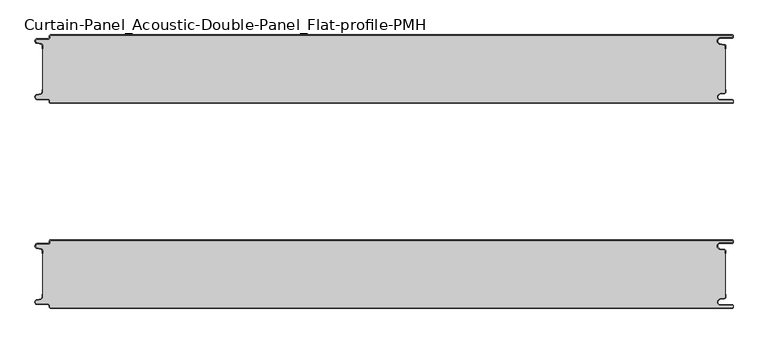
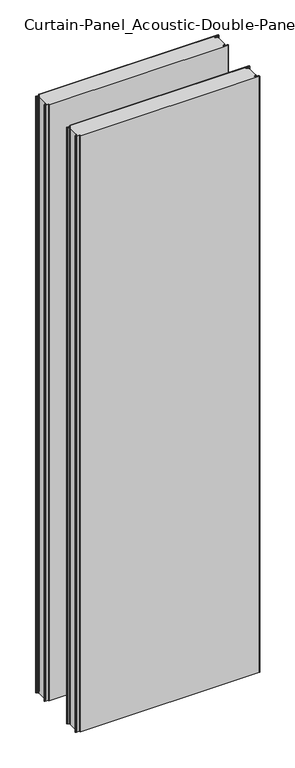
"""IFC4 building model written with IfcOpenShell, lengths in millimetres: plate geometry, Curtain-Panel_Acoustic-Double-Panel_Flat-profile-PMH : ACH_Acoustic-Double-Panel_PMH_100-200-100."""

from ifc_helpers import new_model, si_unit, point, frame_2d, origin, origin_with_axes, place, context, project, spatial, polyline, circle_curve, trimmed, segment, composite_curve, outline, extrude, source, transform, mapped, element, save


def curtain_panel_acoustic_double_panel_flat_profile_pmh_b9cf46a1(model_context):
    return source(origin(), model_context, "Body", "SweptSolid", [
        extrude(outline(composite_curve([segment(polyline([(-487.4, -300.0), (508.1, -300.0)]), True, "CONTINUOUS"), segment(trimmed(circle_curve(frame_2d((508.1, -302.5)), 2.5), [point((508.1, -300.0))], [point((509.6, -300.5))], False, "CARTESIAN"), True, "CONTINUOUS"), segment(polyline([(509.6, -300.5), (509.6, -301.7)]), True, "CONTINUOUS"), segment(trimmed(circle_curve(frame_2d((508.1, -302.5)), 1.7), [point((509.6, -301.7))], [point((508.1, -300.8))], True, "CARTESIAN"), True, "CONTINUOUS"), segment(polyline([(508.1, -300.8), (-487.4, -300.8)]), True, "CONTINUOUS"), segment(trimmed(circle_curve(frame_2d((-487.4, -302.0)), 1.2), [point((-487.4, -300.8))], [point((-488.6, -302.0))], True, "CARTESIAN"), True, "CONTINUOUS"), segment(polyline([(-488.6, -302.0), (-488.6, -303.4)]), True, "CONTINUOUS"), segment(trimmed(circle_curve(frame_2d((-491.4, -303.4)), 2.8), [point((-488.6, -303.4))], [point((-491.4, -306.2))], False, "CARTESIAN"), True, "CONTINUOUS"), segment(polyline([(-491.4, -306.2), (-506.9, -306.2)]), True, "CONTINUOUS"), segment(trimmed(circle_curve(frame_2d((-506.9, -309.0)), 2.8), [point((-506.9, -306.2))], [point((-507.529863, -311.7282362))], True, "CARTESIAN"), True, "CONTINUOUS"), segment(polyline([(-507.529863, -311.7282362), (-501.370137, -313.150321)]), True, "CONTINUOUS"), segment(trimmed(circle_curve(frame_2d((-502.0, -315.878557)), 2.8), [point((-501.370137, -313.150321))], [point((-499.2, -315.878557))], False, "CARTESIAN"), True, "CONTINUOUS"), segment(polyline([(-499.2, -315.878557), (-499.2, -320.0), (-500.0, -320.0), (-500.0, -315.878557)]), True, "CONTINUOUS"), segment(trimmed(circle_curve(frame_2d((-502.0, -315.878557)), 2.0), [point((-500.0, -315.878557))], [point((-501.5500978, -313.9298169))], True, "CARTESIAN"), True, "CONTINUOUS"), segment(polyline([(-501.5500978, -313.9298169), (-507.7098239, -312.507732)]), True, "CONTINUOUS"), segment(trimmed(circle_curve(frame_2d((-506.9, -309.0)), 3.6), [point((-507.7098239, -312.507732))], [point((-506.9, -305.4))], False, "CARTESIAN"), True, "CONTINUOUS"), segment(polyline([(-506.9, -305.4), (-491.4, -305.4)]), True, "CONTINUOUS"), segment(trimmed(circle_curve(frame_2d((-491.4, -303.4)), 2.0), [point((-491.4, -305.4))], [point((-489.4, -303.4))], True, "CARTESIAN"), True, "CONTINUOUS"), segment(polyline([(-489.4, -303.4), (-489.4, -302.0)]), True, "CONTINUOUS"), segment(trimmed(circle_curve(frame_2d((-487.4, -302.0)), 2.0), [point((-489.4, -302.0))], [point((-487.4, -300.0))], False, "CARTESIAN"), True, "CONTINUOUS")], self_intersect=False)), origin_with_axes(), (0.0, 0.0, 1.0), 3500.0),
        extrude(outline(composite_curve([segment(polyline([(508.1, -305.0), (491.1, -305.0)]), True, "CONTINUOUS"), segment(trimmed(circle_curve(frame_2d((491.1, -309.0)), 4.0), [point((491.1, -305.0))], [point((490.405407, -312.939231))], True, "CARTESIAN"), True, "CONTINUOUS"), segment(polyline([(490.405407, -312.939231), (496.8514855, -314.0758491)]), True, "CONTINUOUS"), segment(trimmed(circle_curve(frame_2d((496.4, -316.6363492)), 2.6), [point((496.8514855, -314.0758491))], [point((499.0, -316.6363492))], False, "CARTESIAN"), True, "CONTINUOUS"), segment(polyline([(499.0, -316.6363492), (499.0, -320.0), (498.2, -320.0), (498.2, -316.6363492)]), True, "CONTINUOUS"), segment(trimmed(circle_curve(frame_2d((496.4, -316.6363492)), 1.8), [point((498.2, -316.6363492))], [point((496.7125669, -314.8636953))], True, "CARTESIAN"), True, "CONTINUOUS"), segment(polyline([(496.7125669, -314.8636953), (490.2664884, -313.7270771)]), True, "CONTINUOUS"), segment(trimmed(circle_curve(frame_2d((491.1, -309.0)), 4.8), [point((490.2664884, -313.7270771))], [point((491.1, -304.2))], False, "CARTESIAN"), True, "CONTINUOUS"), segment(polyline([(491.1, -304.2), (508.1, -304.2)]), True, "CONTINUOUS"), segment(trimmed(circle_curve(frame_2d((508.1, -302.5)), 1.7), [point((508.1, -304.2))], [point((509.6, -303.3))], True, "CARTESIAN"), True, "CONTINUOUS"), segment(polyline([(509.6, -303.3), (509.6, -304.5)]), True, "CONTINUOUS"), segment(trimmed(circle_curve(frame_2d((508.1, -302.5)), 2.5), [point((509.6, -304.5))], [point((508.1, -305.0))], False, "CARTESIAN"), True, "CONTINUOUS")], self_intersect=False)), origin_with_axes(), (0.0, 0.0, 1.0), 3500.0),
        extrude(outline(composite_curve([segment(polyline([(-499.2, -384.1214426), (-499.2, -315.8785573)]), True, "CONTINUOUS"), segment(trimmed(circle_curve(frame_2d((-502.0, -315.8785573)), 2.8), [point((-499.2, -315.8785573))], [point((-501.370137, -313.1503212))], True, "CARTESIAN"), True, "CONTINUOUS"), segment(polyline([(-501.370137, -313.1503212), (-507.5298631, -311.7282362)]), True, "CONTINUOUS"), segment(trimmed(circle_curve(frame_2d((-506.9, -309.0)), 2.8), [point((-507.5298631, -311.7282362))], [point((-506.9, -306.2))], False, "CARTESIAN"), True, "CONTINUOUS"), segment(polyline([(-506.9, -306.2), (-491.4000001, -306.2)]), True, "CONTINUOUS"), segment(trimmed(circle_curve(frame_2d((-491.4000001, -303.4)), 2.8), [point((-491.4000001, -306.2))], [point((-488.6000001, -303.4))], True, "CARTESIAN"), True, "CONTINUOUS"), segment(polyline([(-488.6000001, -303.4), (-488.6000001, -302.0)]), True, "CONTINUOUS"), segment(trimmed(circle_curve(frame_2d((-487.4000001, -302.0)), 1.2), [point((-488.6000001, -302.0))], [point((-487.4000001, -300.8))], False, "CARTESIAN"), True, "CONTINUOUS"), segment(polyline([(-487.4000001, -300.8), (508.1, -300.8)]), True, "CONTINUOUS"), segment(trimmed(circle_curve(frame_2d((508.1, -302.5)), 1.7), [point((508.1, -300.8))], [point((509.6, -301.7000001))], False, "CARTESIAN"), True, "CONTINUOUS"), segment(polyline([(509.6, -301.7000001), (509.6, -303.2999999)]), True, "CONTINUOUS"), segment(trimmed(circle_curve(frame_2d((508.1, -302.5)), 1.7), [point((509.6, -303.2999999))], [point((508.1, -304.2))], False, "CARTESIAN"), True, "CONTINUOUS"), segment(polyline([(508.1, -304.2), (491.1, -304.2)]), True, "CONTINUOUS"), segment(trimmed(circle_curve(frame_2d((491.1, -309.0)), 4.8), [point((491.1, -304.2))], [point((490.2664883, -313.7270771))], True, "CARTESIAN"), True, "CONTINUOUS"), segment(polyline([(490.2664883, -313.7270771), (496.7125668, -314.8636953)]), True, "CONTINUOUS"), segment(trimmed(circle_curve(frame_2d((496.4, -316.6363492)), 1.8), [point((496.7125668, -314.8636953))], [point((498.2, -316.6363492))], False, "CARTESIAN"), True, "CONTINUOUS"), segment(polyline([(498.2, -316.6363492), (498.2, -383.3636508)]), True, "CONTINUOUS"), segment(trimmed(circle_curve(frame_2d((496.4, -383.3636508)), 1.8), [point((498.2, -383.3636508))], [point((496.7125668, -385.1363047))], False, "CARTESIAN"), True, "CONTINUOUS"), segment(polyline([(496.7125668, -385.1363047), (490.2664883, -386.2729229)]), True, "CONTINUOUS"), segment(trimmed(circle_curve(frame_2d((491.1, -391.0)), 4.8), [point((490.2664883, -386.2729229))], [point((491.1, -395.8))], True, "CARTESIAN"), True, "CONTINUOUS"), segment(polyline([(491.1, -395.8), (508.1, -395.8)]), True, "CONTINUOUS"), segment(trimmed(circle_curve(frame_2d((508.1, -397.5)), 1.7), [point((508.1, -395.8))], [point((509.6, -396.7000001))], False, "CARTESIAN"), True, "CONTINUOUS"), segment(polyline([(509.6, -396.7000001), (509.6, -398.2999999)]), True, "CONTINUOUS"), segment(trimmed(circle_curve(frame_2d((508.1, -397.5)), 1.7), [point((509.6, -398.2999999))], [point((508.1, -399.2))], False, "CARTESIAN"), True, "CONTINUOUS"), segment(polyline([(508.1, -399.2), (-487.4000001, -399.2)]), True, "CONTINUOUS"), segment(trimmed(circle_curve(frame_2d((-487.4000001, -398.0)), 1.2), [point((-487.4000001, -399.2))], [point((-488.6000001, -398.0))], False, "CARTESIAN"), True, "CONTINUOUS"), segment(polyline([(-488.6000001, -398.0), (-488.6000001, -396.6)]), True, "CONTINUOUS"), segment(trimmed(circle_curve(frame_2d((-491.4000001, -396.6)), 2.8), [point((-488.6000001, -396.6))], [point((-491.4000001, -393.8))], True, "CARTESIAN"), True, "CONTINUOUS"), segment(polyline([(-491.4000001, -393.8), (-506.9, -393.8)]), True, "CONTINUOUS"), segment(trimmed(circle_curve(frame_2d((-506.9, -391.0)), 2.8), [point((-506.9, -393.8))], [point((-507.5298631, -388.2717638))], False, "CARTESIAN"), True, "CONTINUOUS"), segment(polyline([(-507.5298631, -388.2717638), (-501.370137, -386.8496788)]), True, "CONTINUOUS"), segment(trimmed(circle_curve(frame_2d((-502.0, -384.1214426)), 2.8), [point((-501.370137, -386.8496788))], [point((-499.2, -384.1214426))], True, "CARTESIAN"), True, "CONTINUOUS")], self_intersect=False)), origin_with_axes(), (0.0, 0.0, 1.0), 3500.0),
        extrude(outline(composite_curve([segment(polyline([(508.1, -400.0), (-487.4, -400.0)]), True, "CONTINUOUS"), segment(trimmed(circle_curve(frame_2d((-487.4, -398.0)), 2.0), [point((-487.4, -400.0))], [point((-489.4, -398.0))], False, "CARTESIAN"), True, "CONTINUOUS"), segment(polyline([(-489.4, -398.0), (-489.4, -396.6)]), True, "CONTINUOUS"), segment(trimmed(circle_curve(frame_2d((-491.4, -396.6)), 2.0), [point((-489.4, -396.6))], [point((-491.4, -394.6))], True, "CARTESIAN"), True, "CONTINUOUS"), segment(polyline([(-491.4, -394.6), (-506.9, -394.6)]), True, "CONTINUOUS"), segment(trimmed(circle_curve(frame_2d((-506.9, -391.0)), 3.6), [point((-506.9, -394.6))], [point((-507.7098239, -387.4922678))], False, "CARTESIAN"), True, "CONTINUOUS"), segment(polyline([(-507.7098239, -387.4922678), (-501.5500979, -386.070183)]), True, "CONTINUOUS"), segment(trimmed(circle_curve(frame_2d((-502.0, -384.121443)), 2.0), [point((-501.5500979, -386.070183))], [point((-500.0, -384.121443))], True, "CARTESIAN"), True, "CONTINUOUS"), segment(polyline([(-500.0, -384.121443), (-500.0, -380.0), (-499.2, -380.0), (-499.2, -384.121443)]), True, "CONTINUOUS"), segment(trimmed(circle_curve(frame_2d((-502.0, -384.121443)), 2.8), [point((-499.2, -384.121443))], [point((-501.370137, -386.8496792))], False, "CARTESIAN"), True, "CONTINUOUS"), segment(polyline([(-501.370137, -386.8496792), (-507.529863, -388.271764)]), True, "CONTINUOUS"), segment(trimmed(circle_curve(frame_2d((-506.9, -391.0)), 2.8), [point((-507.529863, -388.271764))], [point((-506.9, -393.8))], True, "CARTESIAN"), True, "CONTINUOUS"), segment(polyline([(-506.9, -393.8), (-491.4, -393.8)]), True, "CONTINUOUS"), segment(trimmed(circle_curve(frame_2d((-491.4, -396.6)), 2.8), [point((-491.4, -393.8))], [point((-488.6, -396.6))], False, "CARTESIAN"), True, "CONTINUOUS"), segment(polyline([(-488.6, -396.6), (-488.6, -398.0)]), True, "CONTINUOUS"), segment(trimmed(circle_curve(frame_2d((-487.4, -398.0)), 1.2), [point((-488.6, -398.0))], [point((-487.4, -399.2))], True, "CARTESIAN"), True, "CONTINUOUS"), segment(polyline([(-487.4, -399.2), (508.1, -399.2)]), True, "CONTINUOUS"), segment(trimmed(circle_curve(frame_2d((508.1, -397.5)), 1.7), [point((508.1, -399.2))], [point((509.6, -398.3))], True, "CARTESIAN"), True, "CONTINUOUS"), segment(polyline([(509.6, -398.3), (509.6, -399.5)]), True, "CONTINUOUS"), segment(trimmed(circle_curve(frame_2d((508.1, -397.5)), 2.5), [point((509.6, -399.5))], [point((508.1, -400.0))], False, "CARTESIAN"), True, "CONTINUOUS")], self_intersect=False)), origin_with_axes(), (0.0, 0.0, 1.0), 3500.0),
        extrude(outline(composite_curve([segment(polyline([(508.1, -395.8), (491.1, -395.8)]), True, "CONTINUOUS"), segment(trimmed(circle_curve(frame_2d((491.1, -391.0)), 4.8), [point((491.1, -395.8))], [point((490.2664884, -386.2729229))], False, "CARTESIAN"), True, "CONTINUOUS"), segment(polyline([(490.2664884, -386.2729229), (496.7125669, -385.1363047)]), True, "CONTINUOUS"), segment(trimmed(circle_curve(frame_2d((496.4, -383.3636508)), 1.8), [point((496.7125669, -385.1363047))], [point((498.2, -383.3636508))], True, "CARTESIAN"), True, "CONTINUOUS"), segment(polyline([(498.2, -383.3636508), (498.2, -380.0), (499.0, -380.0), (499.0, -383.3636508)]), True, "CONTINUOUS"), segment(trimmed(circle_curve(frame_2d((496.4, -383.3636508)), 2.6), [point((499.0, -383.3636508))], [point((496.8514855, -385.9241509))], False, "CARTESIAN"), True, "CONTINUOUS"), segment(polyline([(496.8514855, -385.9241509), (490.405407, -387.060769)]), True, "CONTINUOUS"), segment(trimmed(circle_curve(frame_2d((491.1, -391.0)), 4.0), [point((490.405407, -387.060769))], [point((491.1, -395.0))], True, "CARTESIAN"), True, "CONTINUOUS"), segment(polyline([(491.1, -395.0), (508.1, -395.0)]), True, "CONTINUOUS"), segment(trimmed(circle_curve(frame_2d((508.1, -397.5)), 2.5), [point((508.1, -395.0))], [point((509.6, -395.5))], False, "CARTESIAN"), True, "CONTINUOUS"), segment(polyline([(509.6, -395.5), (509.6, -396.7)]), True, "CONTINUOUS"), segment(trimmed(circle_curve(frame_2d((508.1, -397.5)), 1.7), [point((509.6, -396.7))], [point((508.1, -395.8))], True, "CARTESIAN"), True, "CONTINUOUS")], self_intersect=False)), origin_with_axes(), (0.0, 0.0, 1.0), 3500.0),
        extrude(outline(composite_curve([segment(polyline([(-487.4, 0.0), (508.1, 0.0)]), True, "CONTINUOUS"), segment(trimmed(circle_curve(frame_2d((508.1, -2.5)), 2.5), [point((508.1, 0.0))], [point((509.6, -0.5))], False, "CARTESIAN"), True, "CONTINUOUS"), segment(polyline([(509.6, -0.5), (509.6, -1.7)]), True, "CONTINUOUS"), segment(trimmed(circle_curve(frame_2d((508.1, -2.5)), 1.7), [point((509.6, -1.7))], [point((508.1, -0.8))], True, "CARTESIAN"), True, "CONTINUOUS"), segment(polyline([(508.1, -0.8), (-487.4, -0.8)]), True, "CONTINUOUS"), segment(trimmed(circle_curve(frame_2d((-487.4, -2.0)), 1.2), [point((-487.4, -0.8))], [point((-488.6, -2.0))], True, "CARTESIAN"), True, "CONTINUOUS"), segment(polyline([(-488.6, -2.0), (-488.6, -3.4)]), True, "CONTINUOUS"), segment(trimmed(circle_curve(frame_2d((-491.4, -3.4)), 2.8), [point((-488.6, -3.4))], [point((-491.4, -6.2))], False, "CARTESIAN"), True, "CONTINUOUS"), segment(polyline([(-491.4, -6.2), (-506.9, -6.2)]), True, "CONTINUOUS"), segment(trimmed(circle_curve(frame_2d((-506.9, -9.0)), 2.8), [point((-506.9, -6.2))], [point((-507.529863, -11.7282362))], True, "CARTESIAN"), True, "CONTINUOUS"), segment(polyline([(-507.529863, -11.7282362), (-501.370137, -13.150321)]), True, "CONTINUOUS"), segment(trimmed(circle_curve(frame_2d((-502.0, -15.878557)), 2.8), [point((-501.370137, -13.150321))], [point((-499.2, -15.878557))], False, "CARTESIAN"), True, "CONTINUOUS"), segment(polyline([(-499.2, -15.878557), (-499.2, -20.0), (-500.0, -20.0), (-500.0, -15.878557)]), True, "CONTINUOUS"), segment(trimmed(circle_curve(frame_2d((-502.0, -15.878557)), 2.0), [point((-500.0, -15.878557))], [point((-501.5500978, -13.9298169))], True, "CARTESIAN"), True, "CONTINUOUS"), segment(polyline([(-501.5500978, -13.9298169), (-507.7098239, -12.507732)]), True, "CONTINUOUS"), segment(trimmed(circle_curve(frame_2d((-506.9, -9.0)), 3.6), [point((-507.7098239, -12.507732))], [point((-506.9, -5.4))], False, "CARTESIAN"), True, "CONTINUOUS"), segment(polyline([(-506.9, -5.4), (-491.4, -5.4)]), True, "CONTINUOUS"), segment(trimmed(circle_curve(frame_2d((-491.4, -3.4)), 2.0), [point((-491.4, -5.4))], [point((-489.4, -3.4))], True, "CARTESIAN"), True, "CONTINUOUS"), segment(polyline([(-489.4, -3.4), (-489.4, -2.0)]), True, "CONTINUOUS"), segment(trimmed(circle_curve(frame_2d((-487.4, -2.0)), 2.0), [point((-489.4, -2.0))], [point((-487.4, 0.0))], False, "CARTESIAN"), True, "CONTINUOUS")], self_intersect=False)), origin_with_axes(), (0.0, 0.0, 1.0), 3500.0),
        extrude(outline(composite_curve([segment(polyline([(508.1, -5.0), (491.1, -5.0)]), True, "CONTINUOUS"), segment(trimmed(circle_curve(frame_2d((491.1, -9.0)), 4.0), [point((491.1, -5.0))], [point((490.405407, -12.939231))], True, "CARTESIAN"), True, "CONTINUOUS"), segment(polyline([(490.405407, -12.939231), (496.8514855, -14.0758491)]), True, "CONTINUOUS"), segment(trimmed(circle_curve(frame_2d((496.4, -16.6363492)), 2.6), [point((496.8514855, -14.0758491))], [point((499.0, -16.6363492))], False, "CARTESIAN"), True, "CONTINUOUS"), segment(polyline([(499.0, -16.6363492), (499.0, -20.0), (498.2, -20.0), (498.2, -16.6363492)]), True, "CONTINUOUS"), segment(trimmed(circle_curve(frame_2d((496.4, -16.6363492)), 1.8), [point((498.2, -16.6363492))], [point((496.7125669, -14.8636953))], True, "CARTESIAN"), True, "CONTINUOUS"), segment(polyline([(496.7125669, -14.8636953), (490.2664884, -13.7270771)]), True, "CONTINUOUS"), segment(trimmed(circle_curve(frame_2d((491.1, -9.0)), 4.8), [point((490.2664884, -13.7270771))], [point((491.1, -4.2))], False, "CARTESIAN"), True, "CONTINUOUS"), segment(polyline([(491.1, -4.2), (508.1, -4.2)]), True, "CONTINUOUS"), segment(trimmed(circle_curve(frame_2d((508.1, -2.5)), 1.7), [point((508.1, -4.2))], [point((509.6, -3.3))], True, "CARTESIAN"), True, "CONTINUOUS"), segment(polyline([(509.6, -3.3), (509.6, -4.5)]), True, "CONTINUOUS"), segment(trimmed(circle_curve(frame_2d((508.1, -2.5)), 2.5), [point((509.6, -4.5))], [point((508.1, -5.0))], False, "CARTESIAN"), True, "CONTINUOUS")], self_intersect=False)), origin_with_axes(), (0.0, 0.0, 1.0), 3500.0),
        extrude(outline(composite_curve([segment(polyline([(-499.2, -84.1214426), (-499.2, -15.8785573)]), True, "CONTINUOUS"), segment(trimmed(circle_curve(frame_2d((-502.0, -15.8785573)), 2.8), [point((-499.2, -15.8785573))], [point((-501.370137, -13.1503212))], True, "CARTESIAN"), True, "CONTINUOUS"), segment(polyline([(-501.370137, -13.1503212), (-507.5298631, -11.7282362)]), True, "CONTINUOUS"), segment(trimmed(circle_curve(frame_2d((-506.9, -9.0)), 2.8), [point((-507.5298631, -11.7282362))], [point((-506.9, -6.2))], False, "CARTESIAN"), True, "CONTINUOUS"), segment(polyline([(-506.9, -6.2), (-491.4000001, -6.2)]), True, "CONTINUOUS"), segment(trimmed(circle_curve(frame_2d((-491.4000001, -3.4)), 2.8), [point((-491.4000001, -6.2))], [point((-488.6000001, -3.4))], True, "CARTESIAN"), True, "CONTINUOUS"), segment(polyline([(-488.6000001, -3.4), (-488.6000001, -2.0)]), True, "CONTINUOUS"), segment(trimmed(circle_curve(frame_2d((-487.4000001, -2.0)), 1.2), [point((-488.6000001, -2.0))], [point((-487.4000001, -0.8))], False, "CARTESIAN"), True, "CONTINUOUS"), segment(polyline([(-487.4000001, -0.8), (508.1, -0.8)]), True, "CONTINUOUS"), segment(trimmed(circle_curve(frame_2d((508.1, -2.5)), 1.7), [point((508.1, -0.8))], [point((509.6, -1.7000001))], False, "CARTESIAN"), True, "CONTINUOUS"), segment(polyline([(509.6, -1.7000001), (509.6, -3.2999999)]), True, "CONTINUOUS"), segment(trimmed(circle_curve(frame_2d((508.1, -2.5)), 1.7), [point((509.6, -3.2999999))], [point((508.1, -4.2))], False, "CARTESIAN"), True, "CONTINUOUS"), segment(polyline([(508.1, -4.2), (491.1, -4.2)]), True, "CONTINUOUS"), segment(trimmed(circle_curve(frame_2d((491.1, -9.0)), 4.8), [point((491.1, -4.2))], [point((490.2664883, -13.7270771))], True, "CARTESIAN"), True, "CONTINUOUS"), segment(polyline([(490.2664883, -13.7270771), (496.7125668, -14.8636953)]), True, "CONTINUOUS"), segment(trimmed(circle_curve(frame_2d((496.4, -16.6363492)), 1.8), [point((496.7125668, -14.8636953))], [point((498.2, -16.6363492))], False, "CARTESIAN"), True, "CONTINUOUS"), segment(polyline([(498.2, -16.6363492), (498.2, -83.3636508)]), True, "CONTINUOUS"), segment(trimmed(circle_curve(frame_2d((496.4, -83.3636508)), 1.8), [point((498.2, -83.3636508))], [point((496.7125668, -85.1363047))], False, "CARTESIAN"), True, "CONTINUOUS"), segment(polyline([(496.7125668, -85.1363047), (490.2664883, -86.2729229)]), True, "CONTINUOUS"), segment(trimmed(circle_curve(frame_2d((491.1, -91.0)), 4.8), [point((490.2664883, -86.2729229))], [point((491.1, -95.8))], True, "CARTESIAN"), True, "CONTINUOUS"), segment(polyline([(491.1, -95.8), (508.1, -95.8)]), True, "CONTINUOUS"), segment(trimmed(circle_curve(frame_2d((508.1, -97.5)), 1.7), [point((508.1, -95.8))], [point((509.6, -96.7000001))], False, "CARTESIAN"), True, "CONTINUOUS"), segment(polyline([(509.6, -96.7000001), (509.6, -98.2999999)]), True, "CONTINUOUS"), segment(trimmed(circle_curve(frame_2d((508.1, -97.5)), 1.7), [point((509.6, -98.2999999))], [point((508.1, -99.2))], False, "CARTESIAN"), True, "CONTINUOUS"), segment(polyline([(508.1, -99.2), (-487.4000001, -99.2)]), True, "CONTINUOUS"), segment(trimmed(circle_curve(frame_2d((-487.4000001, -98.0)), 1.2), [point((-487.4000001, -99.2))], [point((-488.6000001, -98.0))], False, "CARTESIAN"), True, "CONTINUOUS"), segment(polyline([(-488.6000001, -98.0), (-488.6000001, -96.6)]), True, "CONTINUOUS"), segment(trimmed(circle_curve(frame_2d((-491.4000001, -96.6)), 2.8), [point((-488.6000001, -96.6))], [point((-491.4000001, -93.8))], True, "CARTESIAN"), True, "CONTINUOUS"), segment(polyline([(-491.4000001, -93.8), (-506.9, -93.8)]), True, "CONTINUOUS"), segment(trimmed(circle_curve(frame_2d((-506.9, -91.0)), 2.8), [point((-506.9, -93.8))], [point((-507.5298631, -88.2717638))], False, "CARTESIAN"), True, "CONTINUOUS"), segment(polyline([(-507.5298631, -88.2717638), (-501.370137, -86.8496788)]), True, "CONTINUOUS"), segment(trimmed(circle_curve(frame_2d((-502.0, -84.1214426)), 2.8), [point((-501.370137, -86.8496788))], [point((-499.2, -84.1214426))], True, "CARTESIAN"), True, "CONTINUOUS")], self_intersect=False)), origin_with_axes(), (0.0, 0.0, 1.0), 3500.0),
        extrude(outline(composite_curve([segment(polyline([(508.1, -100.0), (-487.4, -100.0)]), True, "CONTINUOUS"), segment(trimmed(circle_curve(frame_2d((-487.4, -98.0)), 2.0), [point((-487.4, -100.0))], [point((-489.4, -98.0))], False, "CARTESIAN"), True, "CONTINUOUS"), segment(polyline([(-489.4, -98.0), (-489.4, -96.6)]), True, "CONTINUOUS"), segment(trimmed(circle_curve(frame_2d((-491.4, -96.6)), 2.0), [point((-489.4, -96.6))], [point((-491.4, -94.6))], True, "CARTESIAN"), True, "CONTINUOUS"), segment(polyline([(-491.4, -94.6), (-506.9, -94.6)]), True, "CONTINUOUS"), segment(trimmed(circle_curve(frame_2d((-506.9, -91.0)), 3.6), [point((-506.9, -94.6))], [point((-507.7098239, -87.4922678))], False, "CARTESIAN"), True, "CONTINUOUS"), segment(polyline([(-507.7098239, -87.4922678), (-501.5500979, -86.070183)]), True, "CONTINUOUS"), segment(trimmed(circle_curve(frame_2d((-502.0, -84.121443)), 2.0), [point((-501.5500979, -86.070183))], [point((-500.0, -84.121443))], True, "CARTESIAN"), True, "CONTINUOUS"), segment(polyline([(-500.0, -84.121443), (-500.0, -80.0), (-499.2, -80.0), (-499.2, -84.121443)]), True, "CONTINUOUS"), segment(trimmed(circle_curve(frame_2d((-502.0, -84.121443)), 2.8), [point((-499.2, -84.121443))], [point((-501.370137, -86.8496792))], False, "CARTESIAN"), True, "CONTINUOUS"), segment(polyline([(-501.370137, -86.8496792), (-507.529863, -88.271764)]), True, "CONTINUOUS"), segment(trimmed(circle_curve(frame_2d((-506.9, -91.0)), 2.8), [point((-507.529863, -88.271764))], [point((-506.9, -93.8))], True, "CARTESIAN"), True, "CONTINUOUS"), segment(polyline([(-506.9, -93.8), (-491.4, -93.8)]), True, "CONTINUOUS"), segment(trimmed(circle_curve(frame_2d((-491.4, -96.6)), 2.8), [point((-491.4, -93.8))], [point((-488.6, -96.6))], False, "CARTESIAN"), True, "CONTINUOUS"), segment(polyline([(-488.6, -96.6), (-488.6, -98.0)]), True, "CONTINUOUS"), segment(trimmed(circle_curve(frame_2d((-487.4, -98.0)), 1.2), [point((-488.6, -98.0))], [point((-487.4, -99.2))], True, "CARTESIAN"), True, "CONTINUOUS"), segment(polyline([(-487.4, -99.2), (508.1, -99.2)]), True, "CONTINUOUS"), segment(trimmed(circle_curve(frame_2d((508.1, -97.5)), 1.7), [point((508.1, -99.2))], [point((509.6, -98.3))], True, "CARTESIAN"), True, "CONTINUOUS"), segment(polyline([(509.6, -98.3), (509.6, -99.5)]), True, "CONTINUOUS"), segment(trimmed(circle_curve(frame_2d((508.1, -97.5)), 2.5), [point((509.6, -99.5))], [point((508.1, -100.0))], False, "CARTESIAN"), True, "CONTINUOUS")], self_intersect=False)), origin_with_axes(), (0.0, 0.0, 1.0), 3500.0),
        extrude(outline(composite_curve([segment(polyline([(508.1, -95.8), (491.1, -95.8)]), True, "CONTINUOUS"), segment(trimmed(circle_curve(frame_2d((491.1, -91.0)), 4.8), [point((491.1, -95.8))], [point((490.2664884, -86.2729229))], False, "CARTESIAN"), True, "CONTINUOUS"), segment(polyline([(490.2664884, -86.2729229), (496.7125669, -85.1363047)]), True, "CONTINUOUS"), segment(trimmed(circle_curve(frame_2d((496.4, -83.3636508)), 1.8), [point((496.7125669, -85.1363047))], [point((498.2, -83.3636508))], True, "CARTESIAN"), True, "CONTINUOUS"), segment(polyline([(498.2, -83.3636508), (498.2, -80.0), (499.0, -80.0), (499.0, -83.3636508)]), True, "CONTINUOUS"), segment(trimmed(circle_curve(frame_2d((496.4, -83.3636508)), 2.6), [point((499.0, -83.3636508))], [point((496.8514855, -85.9241509))], False, "CARTESIAN"), True, "CONTINUOUS"), segment(polyline([(496.8514855, -85.9241509), (490.405407, -87.060769)]), True, "CONTINUOUS"), segment(trimmed(circle_curve(frame_2d((491.1, -91.0)), 4.0), [point((490.405407, -87.060769))], [point((491.1, -95.0))], True, "CARTESIAN"), True, "CONTINUOUS"), segment(polyline([(491.1, -95.0), (508.1, -95.0)]), True, "CONTINUOUS"), segment(trimmed(circle_curve(frame_2d((508.1, -97.5)), 2.5), [point((508.1, -95.0))], [point((509.6, -95.5))], False, "CARTESIAN"), True, "CONTINUOUS"), segment(polyline([(509.6, -95.5), (509.6, -96.7)]), True, "CONTINUOUS"), segment(trimmed(circle_curve(frame_2d((508.1, -97.5)), 1.7), [point((509.6, -96.7))], [point((508.1, -95.8))], True, "CARTESIAN"), True, "CONTINUOUS")], self_intersect=False)), origin_with_axes(), (0.0, 0.0, 1.0), 3500.0),
    ])


if __name__ == "__main__":
    model = new_model("IFC4")
    model_context = context("Model", 3, world=origin())
    ifc_project = project(units=[si_unit("LENGTHUNIT", "METRE", prefix="MILLI")], contexts=[model_context])
    site = spatial("IfcSite", under=ifc_project)
    building = spatial("IfcBuilding", under=site)
    placement = place(None, origin())
    curtain_panel_acoustic_double_panel_flat_profile_pmh_shape = curtain_panel_acoustic_double_panel_flat_profile_pmh_b9cf46a1(model_context)
    element("IfcPlate", 1, ObjectType="Curtain-Panel_Acoustic-Double-Panel_Flat-profile-PMH : ACH_Acoustic-Double-Panel_PMH_100-200-100", at=placement, inside=building, context=model_context, shape_type="MappedRepresentation", body=[
        mapped(curtain_panel_acoustic_double_panel_flat_profile_pmh_shape, transform((0.0, 0.0, 0.0), x_axis=(1.0, 0.0, 0.0), y_axis=(0.0, 1.0, 0.0), z_axis=(0.0, 0.0, 1.0))),
    ])
    save(model, "model.ifc")
